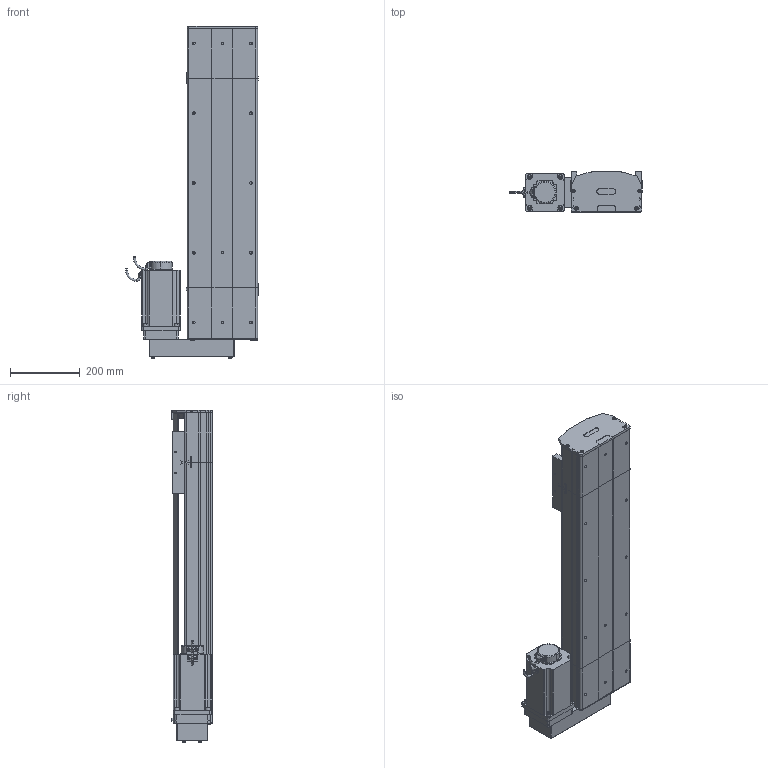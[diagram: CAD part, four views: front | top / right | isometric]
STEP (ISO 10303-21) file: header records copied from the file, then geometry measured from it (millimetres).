
FILE_DESCRIPTION (( 'STEP AP214' ), '1' );
FILE_NAME ('D20 TSH BL S600.STEP', '2010-06-30T08:33:20', ( 'Conseil Régional Haute-Normandie' ), ( 'Conseil Régional Haute-Normandie' ), 'SwSTEP 2.0', 'SolidWorks 2010', '' );
FILE_SCHEMA (( 'AUTOMOTIVE_DESIGN' ));
Length unit declared in the file: millimetre
Products named in the file (35): Arbre+rail tail D20; avant 110BLDC170A-630x; couvercle tail D20_Default; corps 110BLDC170A-630x; tete d''axe haut D20; Chariot D20; chariot D20S_Default; plaque de  bout tail D20_Default; codeur 110BLDC170A-630x; Conecteur2_Default; tail D20 S_Default; tete d''axe bas D20; clavette; Conecteur_Default; corpl tail D20_Default; vis M5 L70_Default; renvoi  BR_Default; vis M8 L12_Default; vis M5 L25_Default; vis M5 L8 90°_Default; 2 vis M5 L12_Default; guide D20; vis M5 L12_Default; Moteur motionking 110BLDC170A-640x; course D20 L600_Default; D20 TSH BL S600; plaque de  bout head BR D20_Default; couvercle head l D20_Default; Arbre+rail head D20; head BL D20_Default; couvercle D20 S600_Default; Plaque racord D20_Default; corpl head MD D20_Default; rail + arbre  D20 S600; corp D20 S600_Default
Assembly tree (59 placements, depth 4):
  D20 TSH BL S600
    chariot D20S_Default
      guide D20  x2
      vis M5 L12_Default  x4
      Chariot D20
    tail D20 S_Default
      plaque de  bout tail D20_Default
      vis M5 L25_Default  x2
      vis M5 L8 90°_Default  x2
      couvercle tail D20_Default
      2 vis M5 L12_Default  x4
      Arbre+rail tail D20
      corpl tail D20_Default
      tete d''axe haut D20
      tete d''axe bas D20
    head BL D20_Default
      vis M8 L12_Default  x4
      vis M5 L25_Default  x2
      vis M5 L12_Default  x2
      vis M5 L70_Default  x4
      2 vis M5 L12_Default  x6
      Plaque racord D20_Default
      couvercle head l D20_Default
      renvoi  BR_Default
      corpl head MD D20_Default
      plaque de  bout head BR D20_Default
      Moteur motionking 110BLDC170A-640x
        clavette
        codeur 110BLDC170A-630x
        Conecteur_Default
        Conecteur2_Default
        corps 110BLDC170A-630x
        avant 110BLDC170A-630x
      Arbre+rail head D20
    course D20 L600_Default
      couvercle D20 S600_Default
      corp D20 S600_Default
      rail + arbre  D20 S600
Bounding box: 380 x 115.7 x 951.7 mm (x, y, z)
Volume: 10405041.8 mm3; surface area: 2096522.5 mm2
Topology: 84 solids, 84 shells, 2306 faces, 5759 edges, 3717 vertices
Faces by surface type: plane 1378, cylinder 640, bspline 136, torus 77, cone 71, sphere 4
Entity records: 74356 total; most frequent: CARTESIAN_POINT 24212, ORIENTED_EDGE 8814, DIRECTION 8336, EDGE_CURVE 4407, VECTOR 2922, LINE 2922, VERTEX_POINT 2899, AXIS2_PLACEMENT_3D 2707
